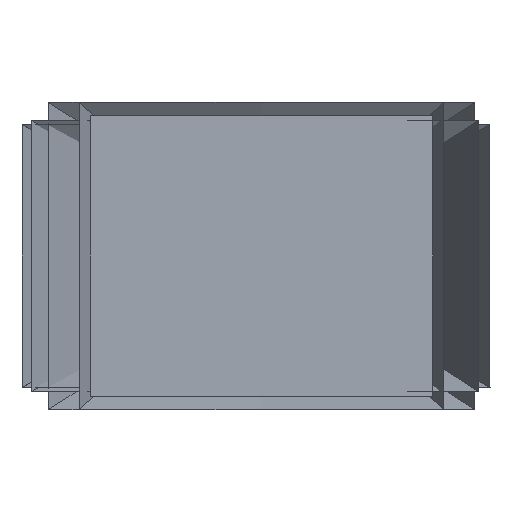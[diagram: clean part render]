
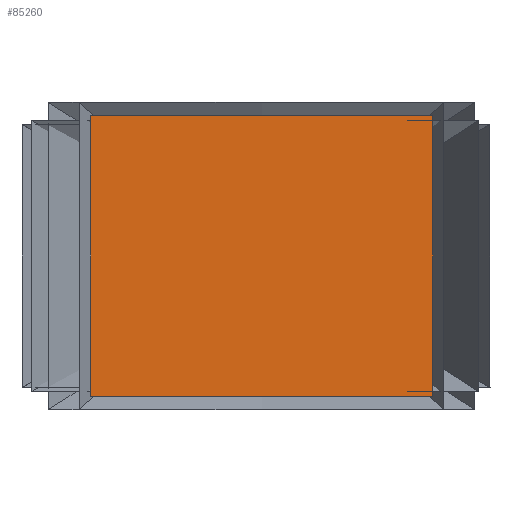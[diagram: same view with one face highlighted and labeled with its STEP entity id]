
A CAD part, front view. The second image highlights one B-rep face of the part: STEP entity #85260.
In plain terms, the highlighted planar face has unit normal (0, -1, 0).
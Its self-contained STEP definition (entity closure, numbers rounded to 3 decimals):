
#85121=DIRECTION('',(0.,0.,-1.));
#85122=VECTOR('',#85121,590.);
#85123=CARTESIAN_POINT('',(-610.,-935.25,277.05));
#85124=LINE('',#85123,#85122);
#85141=DIRECTION('',(0.,0.,-1.));
#85142=VECTOR('',#85141,590.);
#85143=CARTESIAN_POINT('',(110.,-935.25,277.05));
#85144=LINE('',#85143,#85142);
#85145=DIRECTION('',(-1.,0.,0.));
#85146=VECTOR('',#85145,720.);
#85147=CARTESIAN_POINT('',(110.,-935.25,-312.95));
#85148=LINE('',#85147,#85146);
#85153=DIRECTION('',(-1.,0.,0.));
#85154=VECTOR('',#85153,720.);
#85155=CARTESIAN_POINT('',(110.,-935.25,277.05));
#85156=LINE('',#85155,#85154);
#85169=CARTESIAN_POINT('',(-610.,-935.25,277.05));
#85170=VERTEX_POINT('',#85169);
#85171=CARTESIAN_POINT('',(-610.,-935.25,-312.95));
#85172=VERTEX_POINT('',#85171);
#85177=CARTESIAN_POINT('',(110.,-935.25,-312.95));
#85178=VERTEX_POINT('',#85177);
#85179=CARTESIAN_POINT('',(110.,-935.25,277.05));
#85180=VERTEX_POINT('',#85179);
#85247=CARTESIAN_POINT('',(110.,-935.25,277.05));
#85248=DIRECTION('',(0.,-1.,0.));
#85249=DIRECTION('',(-1.,0.,0.));
#85250=AXIS2_PLACEMENT_3D('',#85247,#85248,#85249);
#85251=PLANE('',#85250);
#85252=ORIENTED_EDGE('',*,*,#85190,.F.);
#85254=ORIENTED_EDGE('',*,*,#85253,.F.);
#85256=ORIENTED_EDGE('',*,*,#85255,.T.);
#85257=ORIENTED_EDGE('',*,*,#85233,.T.);
#85258=EDGE_LOOP('',(#85252,#85254,#85256,#85257));
#85259=FACE_OUTER_BOUND('',#85258,.F.);
#85260=ADVANCED_FACE('',(#85259),#85251,.T.);
#85190=EDGE_CURVE('',#85170,#85172,#85124,.T.);
#85233=EDGE_CURVE('',#85178,#85172,#85148,.T.);
#85253=EDGE_CURVE('',#85180,#85170,#85156,.T.);
#85255=EDGE_CURVE('',#85180,#85178,#85144,.T.);
